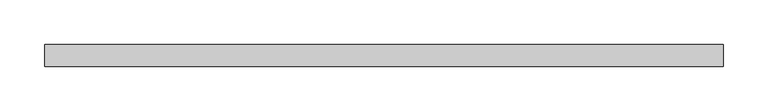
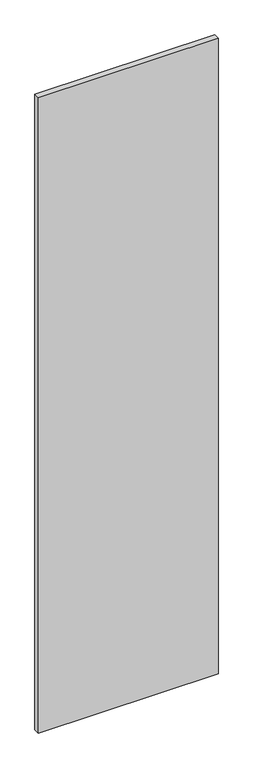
"""IFC4 building model written with IfcOpenShell, lengths in millimetres: plate geometry, 系统嵌板 : 玻璃."""

from ifc_helpers import new_model, si_unit, origin, origin_with_axes, place, context, project, spatial, polyline, outline, extrude, source, transform, mapped, element, save


def plate_b3ac3ebe(model_context):
    return source(origin(), model_context, "Body", "SweptSolid", [
        extrude(outline(polyline([(380.0000001, -12.5), (-380.0000001, -12.5), (-380.0000001, 12.5), (380.0000001, 12.5), (380.0000001, -12.5)])), origin_with_axes(), (0.0, 0.0, 1.0), 2840.0),
    ])


if __name__ == "__main__":
    model = new_model("IFC4")
    model_context = context("Model", 3, world=origin())
    ifc_project = project(units=[si_unit("LENGTHUNIT", "METRE", prefix="MILLI")], contexts=[model_context])
    site = spatial("IfcSite", under=ifc_project)
    building = spatial("IfcBuilding", under=site)
    placement = place(None, origin())
    plate_shape = plate_b3ac3ebe(model_context)
    element("IfcPlate", 1, ObjectType="系统嵌板 : 玻璃", at=placement, inside=building, context=model_context, shape_type="MappedRepresentation", body=[
        mapped(plate_shape, transform((0.0, 0.0, 0.0), x_axis=(1.0, 0.0, 0.0), y_axis=(0.0, 1.0, 0.0), z_axis=(0.0, 0.0, 1.0))),
    ])
    save(model, "model.ifc")
